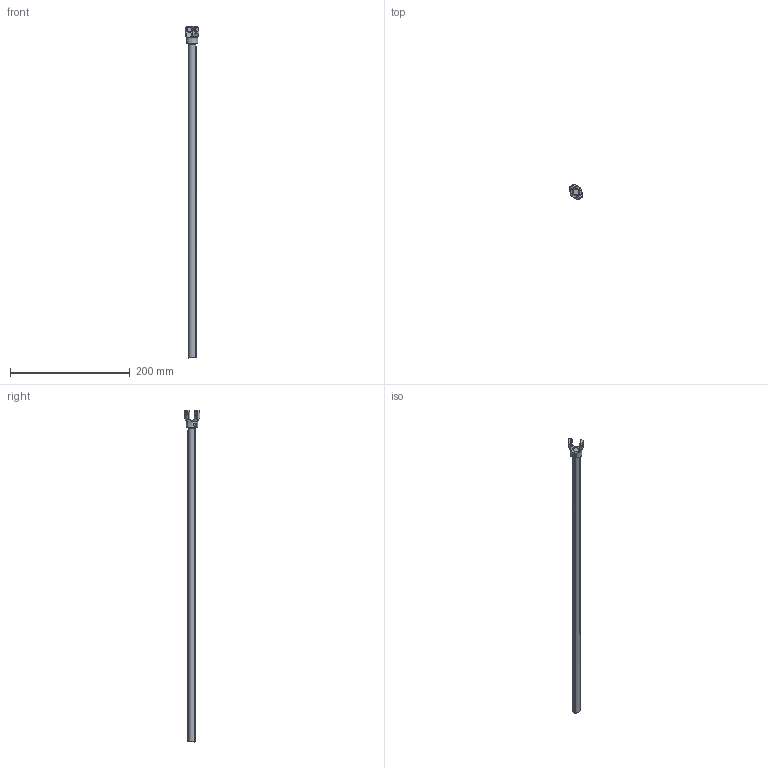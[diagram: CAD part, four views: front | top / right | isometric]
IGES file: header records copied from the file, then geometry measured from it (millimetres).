
Start section: SolidWorks IGES file using analytic representation for surfaces
Global section: file name: C:\Users\SELUHAA\Desktop\Work items\545792\IGES\IRB360_X-1130-STD-4D_rev03_IGES_J\IRB360_X-1130-STD-4D_rev03_MU_CAD.IGS; native system: SolidWorks 2022; preprocessor: SolidWorks 2022; author: SELUHAA; date: 231204.085759; units: millimetre
Bounding box: 22.18 x 25.74 x 554.8 mm (x, y, z)
Surface area: 27563.5 mm2 (no closed solid volume)
Topology: 0 solids, 0 shells, 90 faces, 1410 edges, 1408 vertices
Faces by surface type: revolution 51, bspline 39
